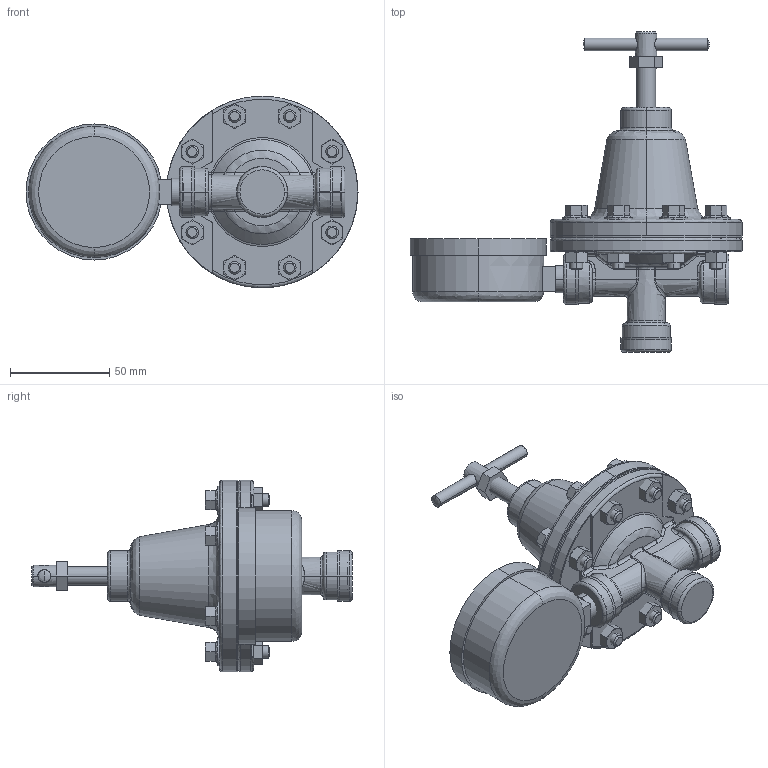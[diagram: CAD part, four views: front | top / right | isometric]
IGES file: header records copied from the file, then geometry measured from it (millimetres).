
Start section:  PTC IGES file: 236449-en-c.igs
Global section: file name: 236449-en-c.igs; native system: Creo Parametric by PTC Inc.; preprocessor: 2019030; author: qusrh3; organization: Unknown; date: 20191231.160212; units: inch
Bounding box: 167.2 x 161.42 x 96.52 mm (x, y, z)
Surface area: 85060.7 mm2 (no closed solid volume)
Topology: 0 solids, 0 shells, 560 faces, 2450 edges, 2446 vertices
Faces by surface type: revolution 348, bspline 212
